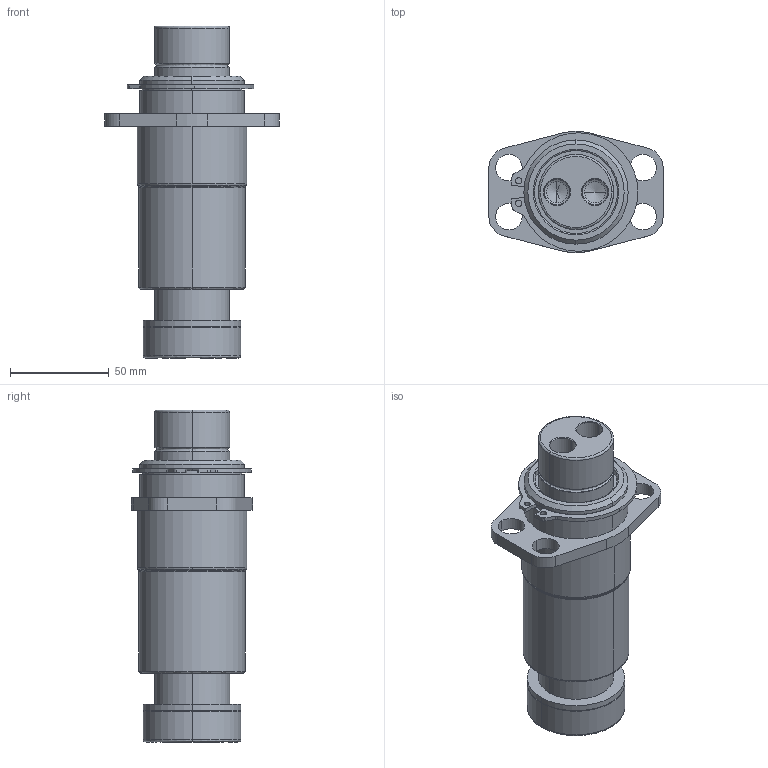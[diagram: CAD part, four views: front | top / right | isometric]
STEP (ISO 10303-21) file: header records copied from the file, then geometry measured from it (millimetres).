
FILE_DESCRIPTION (( 'STEP AP214' ), '1' );
FILE_NAME ('GK152-N4-1-TB-E-XXX.STEP', '2020-09-21T19:38:00', ( '' ), ( '' ), 'SwSTEP 2.0', 'SolidWorks 2017', '' );
FILE_SCHEMA (( 'AUTOMOTIVE_DESIGN' ));
Length unit declared in the file: inch
Products named in the file (7): GK152-DampeningWasher; GK1.50-N4-1-TB-Base; RetainingRing; GK152-E-XXX-GuidePin; GK152-N4-1-TB-E-XXX
Assembly tree (6 placements, depth 3):
  GK152-N4-1-TB-E-XXX
    GK1.50-N4-1-TB-Base
      GK1.50-N4-1-TB-Base
      RetainingRing
    GK152-E-XXX-GuidePin
      GK152-E-XXX-GuidePin
      GK152-DampeningWasher
Bounding box: 88.34 x 61.36 x 168.28 mm (x, y, z)
Volume: 327890.4 mm3; surface area: 71899.2 mm2
Topology: 4 solids, 4 shells, 133 faces, 311 edges, 190 vertices
Faces by surface type: cylinder 65, plane 26, cone 22, bspline 20
Entity records: 4804 total; most frequent: CARTESIAN_POINT 1281, DIRECTION 719, ORIENTED_EDGE 614, EDGE_CURVE 307, AXIS2_PLACEMENT_3D 298, VERTEX_POINT 190, CIRCLE 174, EDGE_LOOP 157
